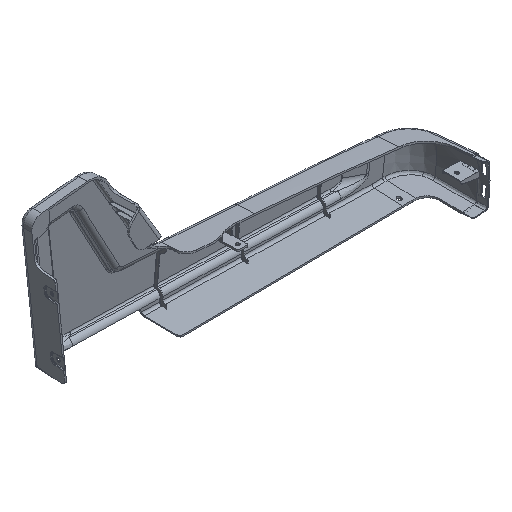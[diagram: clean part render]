
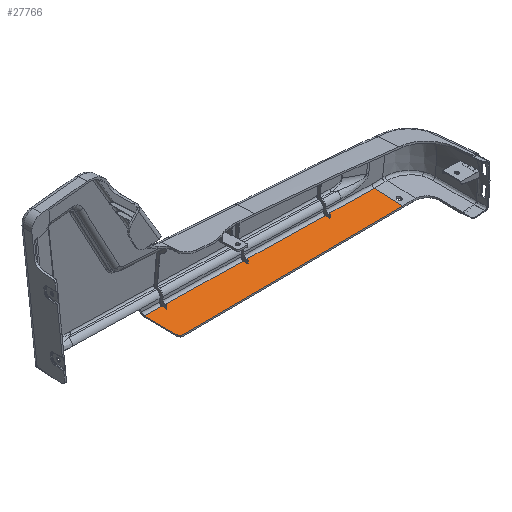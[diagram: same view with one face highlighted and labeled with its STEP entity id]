
A CAD part, isometric view. The second image highlights one B-rep face of the part: STEP entity #27766.
In plain terms, the highlighted planar face has unit normal (0.019, -0.052, 0.998).
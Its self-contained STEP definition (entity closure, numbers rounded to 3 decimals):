
#4985=VECTOR('Line Direction',#4984,1.) ;
#7665=VECTOR('Line Direction',#7664,1.) ;
#9868=VECTOR('Line Direction',#9867,1.) ;
#10983=VECTOR('Line Direction',#10982,1.) ;
#11222=VECTOR('Line Direction',#11221,1.) ;
#11359=VECTOR('Line Direction',#11358,1.) ;
#11602=VECTOR('Line Direction',#11601,1.) ;
#11732=VECTOR('Line Direction',#11731,1.) ;
#11971=VECTOR('Line Direction',#11970,1.) ;
#12108=VECTOR('Line Direction',#12107,1.) ;
#12317=VECTOR('Line Direction',#12316,1.) ;
#12493=VECTOR('Line Direction',#12492,1.) ;
#27089=VECTOR('Line Direction',#27088,1.) ;
#27739=VECTOR('Line Direction',#27738,1.) ;
#27744=VECTOR('Line Direction',#27743,1.) ;
#4984=DIRECTION('Vector Direction',(0.,0.999,0.052)) ;
#7664=DIRECTION('Vector Direction',(1.,0.,-0.019)) ;
#9867=DIRECTION('Vector Direction',(0.01,0.999,0.052)) ;
#10982=DIRECTION('Vector Direction',(1.,0.,-0.019)) ;
#11221=DIRECTION('Vector Direction',(-0.002,0.999,0.052)) ;
#11358=DIRECTION('Vector Direction',(1.,0.,-0.019)) ;
#11601=DIRECTION('Vector Direction',(0.009,0.999,0.052)) ;
#11731=DIRECTION('Vector Direction',(1.,0.,-0.019)) ;
#11970=DIRECTION('Vector Direction',(-0.002,0.999,0.052)) ;
#12107=DIRECTION('Vector Direction',(1.,0.,-0.019)) ;
#12316=DIRECTION('Vector Direction',(0.009,0.999,0.052)) ;
#12492=DIRECTION('Vector Direction',(1.,0.,-0.019)) ;
#27088=DIRECTION('Vector Direction',(1.,0.,-0.019)) ;
#27712=DIRECTION('Axis2P3D Direction',(-0.019,0.052,-0.998)) ;
#27713=DIRECTION('Axis2P3D XDirection',(1.,0.,-0.019)) ;
#27738=DIRECTION('Vector Direction',(-1.,-0.024,0.018)) ;
#27743=DIRECTION('Vector Direction',(-0.037,0.998,0.053)) ;
#4690=CARTESIAN_POINT('Vertex',(811.033,-484.396,316.309)) ;
#4980=CARTESIAN_POINT('Vertex',(811.03,-478.213,316.634)) ;
#4983=CARTESIAN_POINT('Line Origine',(811.032,-481.304,316.471)) ;
#7663=CARTESIAN_POINT('Line Origine',(811.384,-484.396,316.303)) ;
#7667=CARTESIAN_POINT('Vertex',(811.735,-484.396,316.296)) ;
#9866=CARTESIAN_POINT('Line Origine',(811.767,-481.304,316.457)) ;
#9870=CARTESIAN_POINT('Vertex',(811.798,-478.213,316.619)) ;
#10981=CARTESIAN_POINT('Line Origine',(827.716,-478.208,316.315)) ;
#10985=CARTESIAN_POINT('Vertex',(925.094,-478.18,314.458)) ;
#11220=CARTESIAN_POINT('Line Origine',(925.099,-481.272,314.295)) ;
#11224=CARTESIAN_POINT('Vertex',(925.105,-484.363,314.133)) ;
#11357=CARTESIAN_POINT('Line Origine',(925.456,-484.363,314.127)) ;
#11361=CARTESIAN_POINT('Vertex',(925.807,-484.363,314.12)) ;
#11600=CARTESIAN_POINT('Line Origine',(925.834,-481.272,314.281)) ;
#11604=CARTESIAN_POINT('Vertex',(925.86,-478.18,314.443)) ;
#11730=CARTESIAN_POINT('Line Origine',(827.716,-478.208,316.315)) ;
#11734=CARTESIAN_POINT('Vertex',(1039.86,-478.148,312.268)) ;
#11969=CARTESIAN_POINT('Line Origine',(1039.866,-481.239,312.106)) ;
#11973=CARTESIAN_POINT('Vertex',(1039.872,-484.331,311.944)) ;
#12106=CARTESIAN_POINT('Line Origine',(1040.222,-484.331,311.937)) ;
#12110=CARTESIAN_POINT('Vertex',(1040.573,-484.331,311.931)) ;
#12315=CARTESIAN_POINT('Line Origine',(1040.6,-481.239,312.092)) ;
#12319=CARTESIAN_POINT('Vertex',(1040.627,-478.147,312.254)) ;
#12491=CARTESIAN_POINT('Line Origine',(827.716,-478.208,316.315)) ;
#12495=CARTESIAN_POINT('Vertex',(1108.529,-478.128,310.958)) ;
#12547=CARTESIAN_POINT('Control Point',(1108.585,-517.344,308.902)) ;
#12548=CARTESIAN_POINT('Control Point',(1108.567,-504.272,309.587)) ;
#12549=CARTESIAN_POINT('Control Point',(1108.548,-491.2,310.273)) ;
#12550=CARTESIAN_POINT('Control Point',(1108.529,-478.128,310.958)) ;
#12551=CARTESIAN_POINT('Vertex',(1108.585,-517.344,308.902)) ;
#27084=CARTESIAN_POINT('Vertex',(786.81,-478.22,317.096)) ;
#27087=CARTESIAN_POINT('Line Origine',(827.716,-478.208,316.315)) ;
#27711=CARTESIAN_POINT('Axis2P3D Location',(623.798,-452.056,321.579)) ;
#27717=CARTESIAN_POINT('Control Point',(793.874,-525.056,314.506)) ;
#27718=CARTESIAN_POINT('Control Point',(793.369,-525.068,314.515)) ;
#27719=CARTESIAN_POINT('Control Point',(792.864,-525.024,314.527)) ;
#27720=CARTESIAN_POINT('Control Point',(792.365,-524.924,314.542)) ;
#27721=CARTESIAN_POINT('Control Point',(791.404,-524.617,314.576)) ;
#27722=CARTESIAN_POINT('Control Point',(790.536,-524.103,314.62)) ;
#27723=CARTESIAN_POINT('Control Point',(790.136,-523.799,314.643)) ;
#27724=CARTESIAN_POINT('Control Point',(789.422,-523.111,314.693)) ;
#27725=CARTESIAN_POINT('Control Point',(788.891,-522.276,314.747)) ;
#27726=CARTESIAN_POINT('Control Point',(788.68,-521.833,314.774)) ;
#27727=CARTESIAN_POINT('Control Point',(788.481,-521.228,314.81)) ;
#27728=CARTESIAN_POINT('Control Point',(788.384,-520.603,314.844)) ;
#27729=CARTESIAN_POINT('Control Point',(788.368,-520.457,314.852)) ;
#27730=CARTESIAN_POINT('Control Point',(788.356,-520.311,314.86)) ;
#27731=CARTESIAN_POINT('Control Point',(788.351,-520.164,314.868)) ;
#27732=CARTESIAN_POINT('Vertex',(793.874,-525.056,314.506)) ;
#27734=CARTESIAN_POINT('Vertex',(788.351,-520.164,314.868)) ;
#27737=CARTESIAN_POINT('Line Origine',(951.229,-521.2,311.704)) ;
#27742=CARTESIAN_POINT('Line Origine',(787.581,-499.192,315.982)) ;
#27714=AXIS2_PLACEMENT_3D('Plane Axis2P3D',#27711,#27712,#27713) ;
#4987=EDGE_CURVE('',#4691,#4981,#4986,.T.) ;
#7669=EDGE_CURVE('',#4691,#7668,#7666,.T.) ;
#9872=EDGE_CURVE('',#7668,#9871,#9869,.T.) ;
#10987=EDGE_CURVE('',#9871,#10986,#10984,.T.) ;
#11226=EDGE_CURVE('',#11225,#10986,#11223,.T.) ;
#11363=EDGE_CURVE('',#11225,#11362,#11360,.T.) ;
#11606=EDGE_CURVE('',#11362,#11605,#11603,.T.) ;
#11736=EDGE_CURVE('',#11605,#11735,#11733,.T.) ;
#11975=EDGE_CURVE('',#11974,#11735,#11972,.T.) ;
#12112=EDGE_CURVE('',#11974,#12111,#12109,.T.) ;
#12321=EDGE_CURVE('',#12111,#12320,#12318,.T.) ;
#12497=EDGE_CURVE('',#12320,#12496,#12494,.T.) ;
#12553=EDGE_CURVE('',#12552,#12496,#12546,.T.) ;
#27091=EDGE_CURVE('',#27085,#4981,#27090,.T.) ;
#27736=EDGE_CURVE('',#27733,#27735,#27716,.T.) ;
#27741=EDGE_CURVE('',#12552,#27733,#27740,.T.) ;
#27746=EDGE_CURVE('',#27085,#27735,#27745,.F.) ;
#27715=PLANE('Plane',#27714) ;
#27748=ORIENTED_EDGE('',*,*,#27736,.F.) ;
#27749=ORIENTED_EDGE('',*,*,#27741,.F.) ;
#27750=ORIENTED_EDGE('',*,*,#12553,.T.) ;
#27751=ORIENTED_EDGE('',*,*,#12497,.F.) ;
#27752=ORIENTED_EDGE('',*,*,#12321,.F.) ;
#27753=ORIENTED_EDGE('',*,*,#12112,.F.) ;
#27754=ORIENTED_EDGE('',*,*,#11975,.T.) ;
#27755=ORIENTED_EDGE('',*,*,#11736,.F.) ;
#27756=ORIENTED_EDGE('',*,*,#11606,.F.) ;
#27757=ORIENTED_EDGE('',*,*,#11363,.F.) ;
#27758=ORIENTED_EDGE('',*,*,#11226,.T.) ;
#27759=ORIENTED_EDGE('',*,*,#10987,.F.) ;
#27760=ORIENTED_EDGE('',*,*,#9872,.F.) ;
#27761=ORIENTED_EDGE('',*,*,#7669,.F.) ;
#27762=ORIENTED_EDGE('',*,*,#4987,.T.) ;
#27763=ORIENTED_EDGE('',*,*,#27091,.F.) ;
#27764=ORIENTED_EDGE('',*,*,#27746,.T.) ;
#4986=LINE('Line',#4983,#4985) ;
#7666=LINE('Line',#7663,#7665) ;
#9869=LINE('Line',#9866,#9868) ;
#10984=LINE('Line',#10981,#10983) ;
#11223=LINE('Line',#11220,#11222) ;
#11360=LINE('Line',#11357,#11359) ;
#11603=LINE('Line',#11600,#11602) ;
#11733=LINE('Line',#11730,#11732) ;
#11972=LINE('Line',#11969,#11971) ;
#12109=LINE('Line',#12106,#12108) ;
#12318=LINE('Line',#12315,#12317) ;
#12494=LINE('Line',#12491,#12493) ;
#27090=LINE('Line',#27087,#27089) ;
#27740=LINE('Line',#27737,#27739) ;
#27745=LINE('Line',#27742,#27744) ;
#27766=ADVANCED_FACE('\X2\5DE67F6958F3\X0\-1-1117',(#27765),#27715,.F.) ;
#4691=VERTEX_POINT('',#4690) ;
#4981=VERTEX_POINT('',#4980) ;
#7668=VERTEX_POINT('',#7667) ;
#9871=VERTEX_POINT('',#9870) ;
#10986=VERTEX_POINT('',#10985) ;
#11225=VERTEX_POINT('',#11224) ;
#11362=VERTEX_POINT('',#11361) ;
#11605=VERTEX_POINT('',#11604) ;
#11735=VERTEX_POINT('',#11734) ;
#11974=VERTEX_POINT('',#11973) ;
#12111=VERTEX_POINT('',#12110) ;
#12320=VERTEX_POINT('',#12319) ;
#12496=VERTEX_POINT('',#12495) ;
#12552=VERTEX_POINT('',#12551) ;
#27085=VERTEX_POINT('',#27084) ;
#27733=VERTEX_POINT('',#27732) ;
#27735=VERTEX_POINT('',#27734) ;
#27716=B_SPLINE_CURVE_WITH_KNOTS('',5,(#27717,#27718,#27719,#27720,#27721,#27722,#27723,#27724,#27725,#27726,#27727,#27728,#27729,#27730,#27731),.UNSPECIFIED.,.F.,.U.,(6,3,3,3,6),(0.,3.567,7.094,10.531,11.57),.UNSPECIFIED.) ;
#27747=EDGE_LOOP('',(#27748,#27749,#27750,#27751,#27752,#27753,#27754,#27755,#27756,#27757,#27758,#27759,#27760,#27761,#27762,#27763,#27764)) ;
#27765=FACE_OUTER_BOUND('',#27747,.T.) ;
#12546=(BOUNDED_CURVE()B_SPLINE_CURVE(3,(#12547,#12548,#12549,#12550),.UNSPECIFIED.,.F.,.U.)B_SPLINE_CURVE_WITH_KNOTS((4,4),(0.243,39.513),.UNSPECIFIED.)CURVE()GEOMETRIC_REPRESENTATION_ITEM()RATIONAL_B_SPLINE_CURVE((1.,1.,1.,1.))REPRESENTATION_ITEM('')) ;
